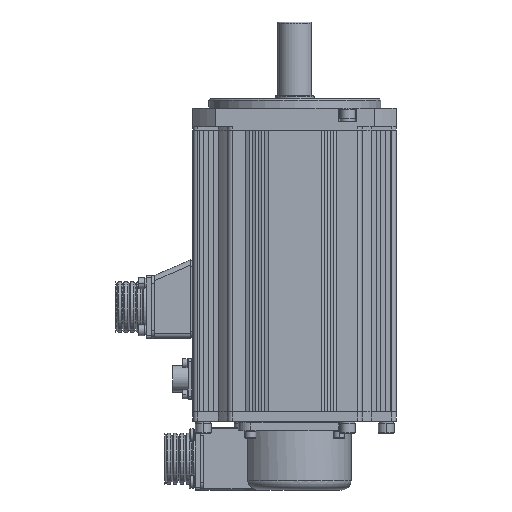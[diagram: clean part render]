
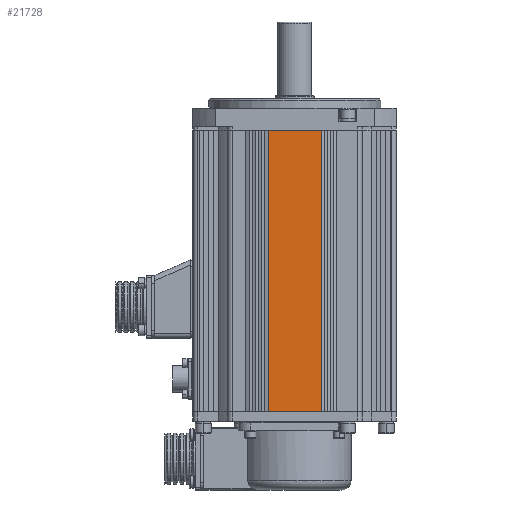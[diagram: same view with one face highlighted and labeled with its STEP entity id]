
A CAD part, front view. The second image highlights one B-rep face of the part: STEP entity #21728.
In plain terms, the highlighted planar face has unit normal (0, -1, 0) as drawn and (0, 1, 0) by its records, which use the part's own axes.
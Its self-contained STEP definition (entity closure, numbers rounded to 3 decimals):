
#14811=DIRECTION('',(0.,0.,-1.));
#14812=VECTOR('',#14811,180.);
#14813=CARTESIAN_POINT('',(-17.,65.,180.));
#14814=LINE('',#14813,#14812);
#14815=DIRECTION('',(1.,0.,0.));
#14816=VECTOR('',#14815,34.);
#14817=CARTESIAN_POINT('',(-17.,65.,0.));
#14818=LINE('',#14817,#14816);
#14823=DIRECTION('',(0.,0.,-1.));
#14824=VECTOR('',#14823,180.);
#14825=CARTESIAN_POINT('',(17.,65.,180.));
#14826=LINE('',#14825,#14824);
#15575=DIRECTION('',(1.,0.,0.));
#15576=VECTOR('',#15575,34.);
#15577=CARTESIAN_POINT('',(-17.,65.,180.));
#15578=LINE('',#15577,#15576);
#16888=CARTESIAN_POINT('',(17.,65.,0.));
#16889=VERTEX_POINT('',#16888);
#16890=CARTESIAN_POINT('',(-17.,65.,0.));
#16891=VERTEX_POINT('',#16890);
#17749=CARTESIAN_POINT('',(-17.,65.,180.));
#17750=VERTEX_POINT('',#17749);
#17751=CARTESIAN_POINT('',(17.,65.,180.));
#17752=VERTEX_POINT('',#17751);
#21715=CARTESIAN_POINT('',(65.,65.,0.));
#21716=DIRECTION('',(0.,1.,0.));
#21717=DIRECTION('',(-1.,0.,0.));
#21718=AXIS2_PLACEMENT_3D('',#21715,#21716,#21717);
#21719=PLANE('',#21718);
#21720=ORIENTED_EDGE('',*,*,#21700,.T.);
#21721=ORIENTED_EDGE('',*,*,#17950,.T.);
#21723=ORIENTED_EDGE('',*,*,#21722,.F.);
#21725=ORIENTED_EDGE('',*,*,#21724,.F.);
#21726=EDGE_LOOP('',(#21720,#21721,#21723,#21725));
#21727=FACE_OUTER_BOUND('',#21726,.F.);
#21728=ADVANCED_FACE('',(#21727),#21719,.T.);
#17950=EDGE_CURVE('',#16891,#16889,#14818,.T.);
#21700=EDGE_CURVE('',#17750,#16891,#14814,.T.);
#21722=EDGE_CURVE('',#17752,#16889,#14826,.T.);
#21724=EDGE_CURVE('',#17750,#17752,#15578,.T.);
